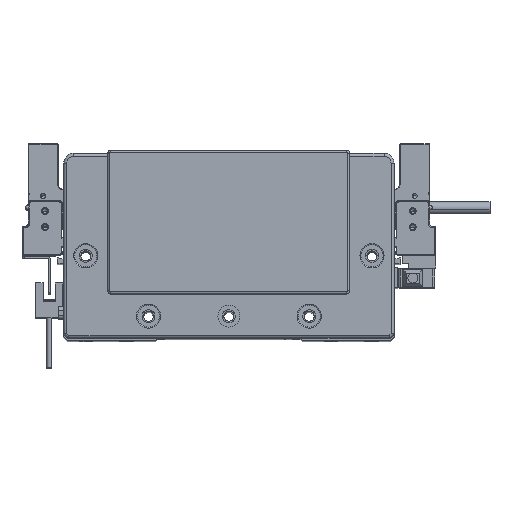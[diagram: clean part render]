
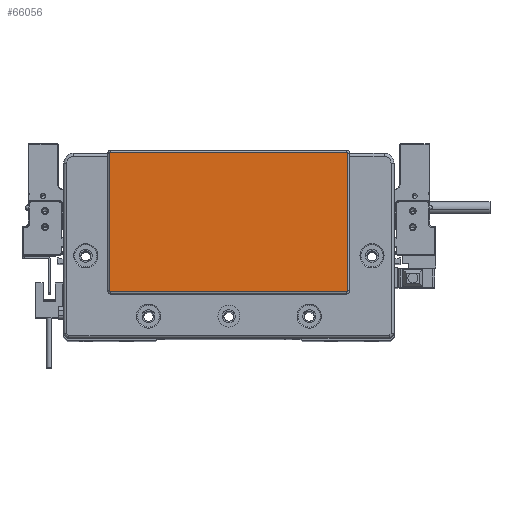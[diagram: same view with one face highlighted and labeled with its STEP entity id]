
A CAD part, top view. The second image highlights one B-rep face of the part: STEP entity #66056.
In plain terms, the highlighted planar face has unit normal (0, 0, 1) as drawn and (0, 0, -1) by its records, which use the part's own axes.
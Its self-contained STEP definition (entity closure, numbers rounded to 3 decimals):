
#307 = ORIENTED_EDGE ( 'NONE', *, *, #31237, .T. ) ;
#382 = DIRECTION ( 'NONE',  ( 0., 0., -1. ) ) ;
#1639 = CARTESIAN_POINT ( 'NONE',  ( -59.25, -23.3, -2. ) ) ;
#2169 = ORIENTED_EDGE ( 'NONE', *, *, #51442, .T. ) ;
#2820 = EDGE_LOOP ( 'NONE', ( #73024, #21323, #307, #2842, #2169, #54643, #5451, #19760 ) ) ;
#2842 = ORIENTED_EDGE ( 'NONE', *, *, #52742, .T. ) ;
#4997 = CARTESIAN_POINT ( 'NONE',  ( -58.75, 45.3, -2. ) ) ;
#5451 = ORIENTED_EDGE ( 'NONE', *, *, #23608, .T. ) ;
#10271 = CARTESIAN_POINT ( 'NONE',  ( 59.25, 45.3, -2. ) ) ;
#13202 = DIRECTION ( 'NONE',  ( -1., 0., 0. ) ) ;
#13408 = DIRECTION ( 'NONE',  ( 0., 0., -1. ) ) ;
#13873 = DIRECTION ( 'NONE',  ( -1., 0., 0. ) ) ;
#14326 = DIRECTION ( 'NONE',  ( 0., 0., -1. ) ) ;
#15508 = VERTEX_POINT ( 'NONE', #32339 ) ;
#16047 = VECTOR ( 'NONE', #37140, 1000. ) ;
#16173 = EDGE_CURVE ( 'NONE', #67475, #57770, #66379, .T. ) ;
#19760 = ORIENTED_EDGE ( 'NONE', *, *, #80802, .T. ) ;
#20718 = CARTESIAN_POINT ( 'NONE',  ( 0., 0., -2. ) ) ;
#20728 = VECTOR ( 'NONE', #63201, 1000. ) ;
#21323 = ORIENTED_EDGE ( 'NONE', *, *, #66082, .T. ) ;
#21623 = CARTESIAN_POINT ( 'NONE',  ( 58.75, -23.3, -2. ) ) ;
#23608 = EDGE_CURVE ( 'NONE', #57770, #28849, #68060, .T. ) ;
#25992 = CARTESIAN_POINT ( 'NONE',  ( -59.25, 45.3, -2. ) ) ;
#26094 = VERTEX_POINT ( 'NONE', #10271 ) ;
#27336 = DIRECTION ( 'NONE',  ( -1., 0., 0. ) ) ;
#27408 = EDGE_CURVE ( 'NONE', #26094, #15508, #90108, .T. ) ;
#28849 = VERTEX_POINT ( 'NONE', #39012 ) ;
#31193 = DIRECTION ( 'NONE',  ( -1., 0., 0. ) ) ;
#31237 = EDGE_CURVE ( 'NONE', #62036, #82836, #86621, .T. ) ;
#32339 = CARTESIAN_POINT ( 'NONE',  ( 59.25, -23.3, -2. ) ) ;
#33636 = VECTOR ( 'NONE', #60762, 1000. ) ;
#37140 = DIRECTION ( 'NONE',  ( 0., 1., 0. ) ) ;
#37353 = DIRECTION ( 'NONE',  ( -1., 0., 0. ) ) ;
#39012 = CARTESIAN_POINT ( 'NONE',  ( 58.75, 45.8, -2. ) ) ;
#40466 = VERTEX_POINT ( 'NONE', #1639 ) ;
#41849 = VECTOR ( 'NONE', #37353, 1000. ) ;
#43924 = CARTESIAN_POINT ( 'NONE',  ( 58.75, -23.8, -2. ) ) ;
#44752 = AXIS2_PLACEMENT_3D ( 'NONE', #74843, #382, #27336 ) ;
#47731 = CARTESIAN_POINT ( 'NONE',  ( -58.75, 45.8, -2. ) ) ;
#48586 = DIRECTION ( 'NONE',  ( -1., 0., 0. ) ) ;
#49493 = FACE_OUTER_BOUND ( 'NONE', #2820, .T. ) ;
#51442 = EDGE_CURVE ( 'NONE', #40466, #67475, #74395, .T. ) ;
#52742 = EDGE_CURVE ( 'NONE', #82836, #40466, #54163, .T. ) ;
#54163 = CIRCLE ( 'NONE', #70195, 0.5 ) ;
#54643 = ORIENTED_EDGE ( 'NONE', *, *, #16173, .T. ) ;
#54702 = AXIS2_PLACEMENT_3D ( 'NONE', #21623, #13408, #13873 ) ;
#55889 = PLANE ( 'NONE',  #61986 ) ;
#57642 = CIRCLE ( 'NONE', #54702, 0.5 ) ;
#57770 = VERTEX_POINT ( 'NONE', #47731 ) ;
#59481 = DIRECTION ( 'NONE',  ( 0., 0., -1. ) ) ;
#60548 = AXIS2_PLACEMENT_3D ( 'NONE', #4997, #88083, #13202 ) ;
#60762 = DIRECTION ( 'NONE',  ( 1., 0., 0. ) ) ;
#61986 = AXIS2_PLACEMENT_3D ( 'NONE', #20718, #14326, #48586 ) ;
#62036 = VERTEX_POINT ( 'NONE', #43924 ) ;
#63201 = DIRECTION ( 'NONE',  ( 0., -1., 0. ) ) ;
#65005 = CARTESIAN_POINT ( 'NONE',  ( -58.75, -23.3, -2. ) ) ;
#66056 = ADVANCED_FACE ( 'NONE', ( #49493 ), #55889, .T. ) ;
#66082 = EDGE_CURVE ( 'NONE', #15508, #62036, #57642, .T. ) ;
#66379 = CIRCLE ( 'NONE', #60548, 0.5 ) ;
#66555 = CARTESIAN_POINT ( 'NONE',  ( -58.75, -23.8, -2. ) ) ;
#67475 = VERTEX_POINT ( 'NONE', #84283 ) ;
#68060 = LINE ( 'NONE', #89497, #33636 ) ;
#70195 = AXIS2_PLACEMENT_3D ( 'NONE', #65005, #59481, #31193 ) ;
#73024 = ORIENTED_EDGE ( 'NONE', *, *, #27408, .T. ) ;
#74395 = LINE ( 'NONE', #25992, #16047 ) ;
#74843 = CARTESIAN_POINT ( 'NONE',  ( 58.75, 45.3, -2. ) ) ;
#76740 = CARTESIAN_POINT ( 'NONE',  ( -58.75, -23.8, -2. ) ) ;
#80802 = EDGE_CURVE ( 'NONE', #28849, #26094, #84087, .T. ) ;
#82836 = VERTEX_POINT ( 'NONE', #76740 ) ;
#83264 = CARTESIAN_POINT ( 'NONE',  ( 59.25, -23.3, -2. ) ) ;
#84087 = CIRCLE ( 'NONE', #44752, 0.5 ) ;
#84283 = CARTESIAN_POINT ( 'NONE',  ( -59.25, 45.3, -2. ) ) ;
#86621 = LINE ( 'NONE', #66555, #41849 ) ;
#88083 = DIRECTION ( 'NONE',  ( 0., 0., -1. ) ) ;
#89497 = CARTESIAN_POINT ( 'NONE',  ( 58.75, 45.8, -2. ) ) ;
#90108 = LINE ( 'NONE', #83264, #20728 ) ;
